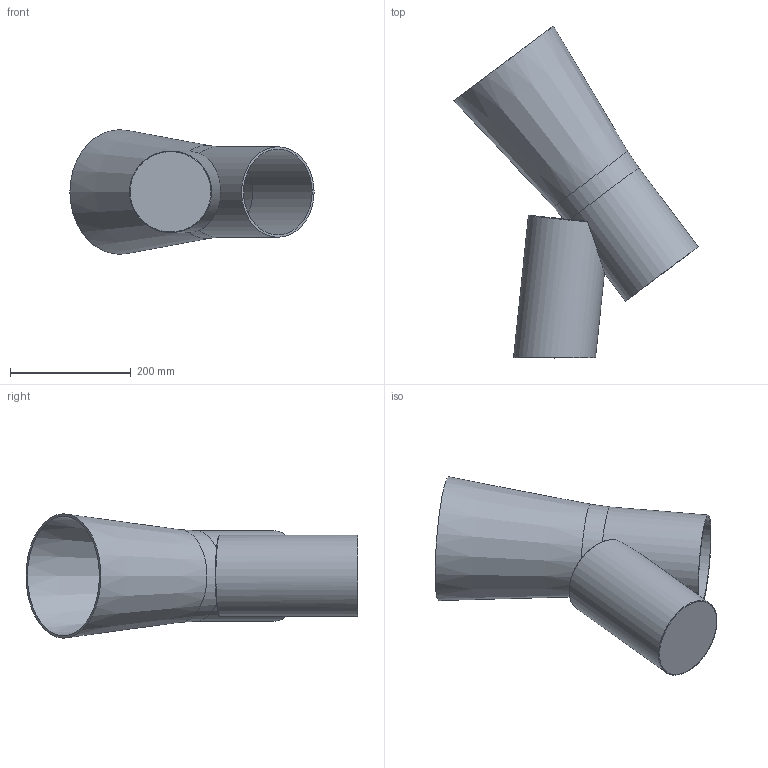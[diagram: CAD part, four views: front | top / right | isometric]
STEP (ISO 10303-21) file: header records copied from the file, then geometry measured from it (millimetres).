
FILE_DESCRIPTION (( 'STEP AP203' ), '1' );
FILE_NAME ('316_STD_T_PL_3D.STEP', '2021-09-21T13:13:15', ( '' ), ( '' ), 'SwSTEP 2.0', 'SolidWorks 2021', '' );
FILE_SCHEMA (( 'CONFIG_CONTROL_DESIGN' ));
Length unit declared in the file: millimetre
Products named in the file (1): 316_STD_T_PL_3D
Bounding box: 403.93 x 549.05 x 206 mm (x, y, z)
Volume: 3969409 mm3; surface area: 572736 mm2
Topology: 2 solids, 2 shells, 14 faces, 28 edges, 18 vertices
Faces by surface type: cylinder 4, plane 4, torus 3, cone 2, bspline 1
Full cylindrical faces by diameter (mm): 135 x1, 142 x1, 150 x1
Entity records: 653 total; most frequent: CARTESIAN_POINT 348, DIRECTION 48, ORIENTED_EDGE 32, AXIS2_PLACEMENT_3D 24, EDGE_LOOP 24, FACE_OUTER_BOUND 20, EDGE_CURVE 16, ADVANCED_FACE 14
